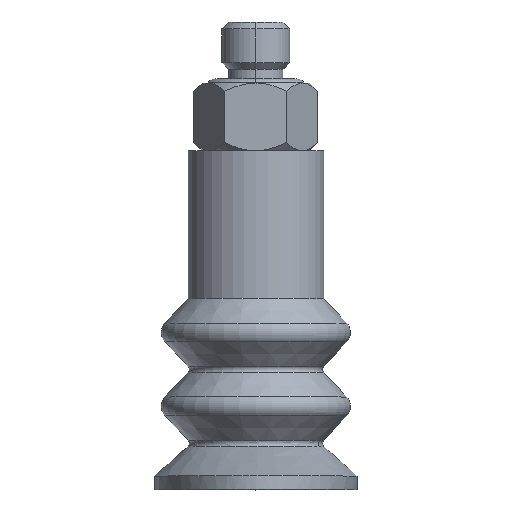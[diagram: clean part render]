
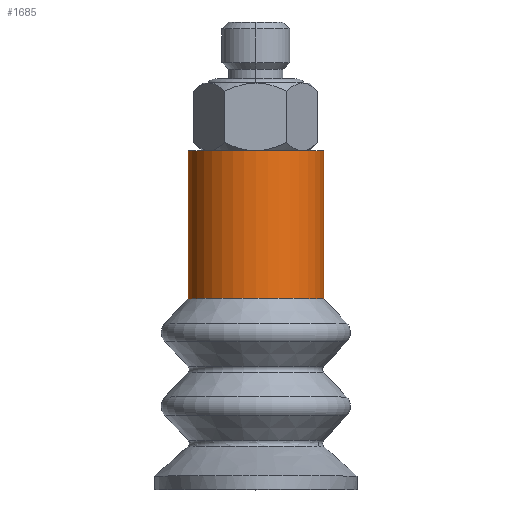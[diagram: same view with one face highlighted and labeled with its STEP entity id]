
A CAD part, top view. The second image highlights one B-rep face of the part: STEP entity #1685.
In plain terms, the highlighted cylindrical face has radius 5 mm (diameter 10 mm), a full revolution.
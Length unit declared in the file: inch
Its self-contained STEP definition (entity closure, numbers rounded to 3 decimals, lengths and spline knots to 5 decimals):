
#1 = DIRECTION ( 'NONE',  ( 0., -1., 0. ) ) ;
#52 = EDGE_CURVE ( 'NONE', #2063, #2063, #984, .T. ) ;
#90 = AXIS2_PLACEMENT_3D ( 'NONE', #1813, #1404, #126 ) ;
#126 = DIRECTION ( 'NONE',  ( 1., 0., 0. ) ) ;
#600 = CIRCLE ( 'NONE', #90, 0.19685 ) ;
#604 = CYLINDRICAL_SURFACE ( 'NONE', #2542, 0.19685 ) ;
#682 = CARTESIAN_POINT ( 'NONE',  ( 0.19685, 0.52756, 0. ) ) ;
#792 = CARTESIAN_POINT ( 'NONE',  ( 0., 0.31299, 0. ) ) ;
#828 = FACE_OUTER_BOUND ( 'NONE', #1227, .T. ) ;
#968 = CARTESIAN_POINT ( 'NONE',  ( 0.19685, 0.09843, 0. ) ) ;
#984 = CIRCLE ( 'NONE', #1490, 0.19685 ) ;
#997 = DIRECTION ( 'NONE',  ( 1., 0., 0. ) ) ;
#1188 = ORIENTED_EDGE ( 'NONE', *, *, #52, .T. ) ;
#1227 = EDGE_LOOP ( 'NONE', ( #1857 ) ) ;
#1353 = VERTEX_POINT ( 'NONE', #968 ) ;
#1404 = DIRECTION ( 'NONE',  ( 0., -1., 0. ) ) ;
#1434 = EDGE_LOOP ( 'NONE', ( #1188 ) ) ;
#1490 = AXIS2_PLACEMENT_3D ( 'NONE', #1709, #1, #2590 ) ;
#1685 = ADVANCED_FACE ( 'NONE', ( #2101, #828 ), #604, .T. ) ;
#1709 = CARTESIAN_POINT ( 'NONE',  ( 0., 0.52756, 0. ) ) ;
#1813 = CARTESIAN_POINT ( 'NONE',  ( 0., 0.09843, 0. ) ) ;
#1857 = ORIENTED_EDGE ( 'NONE', *, *, #2426, .F. ) ;
#2063 = VERTEX_POINT ( 'NONE', #682 ) ;
#2101 = FACE_OUTER_BOUND ( 'NONE', #1434, .T. ) ;
#2426 = EDGE_CURVE ( 'NONE', #1353, #1353, #600, .T. ) ;
#2542 = AXIS2_PLACEMENT_3D ( 'NONE', #792, #2703, #997 ) ;
#2590 = DIRECTION ( 'NONE',  ( 1., 0., 0. ) ) ;
#2703 = DIRECTION ( 'NONE',  ( 0., -1., 0. ) ) ;
